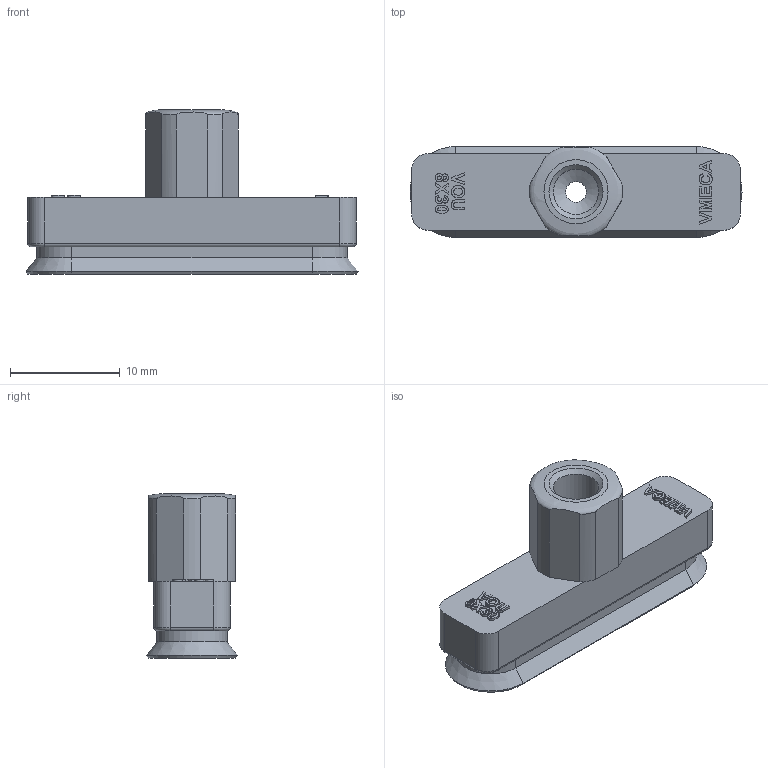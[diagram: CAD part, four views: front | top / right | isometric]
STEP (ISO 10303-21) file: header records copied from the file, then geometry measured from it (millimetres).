
FILE_DESCRIPTION( ( 'Unknown' ), '1' );
FILE_NAME( 'D:/New PAD/PAD-VOU/Part/STEP/VOU 8X30_M5F.stp', 'Unknown', ( 'Unknown' ), ( 'Unknown' ), 'XStep 1.0', 'Unknown', ' ' );
FILE_SCHEMA( ( 'automotive_design' ) );
Length unit declared in the file: millimetre
Products named in the file (1): 8X30_STP
Bounding box: 30.32 x 8.32 x 15 mm (x, y, z)
Volume: 1723.9 mm3; surface area: 1331.7 mm2
Topology: 1 solids, 1 shells, 158 faces, 389 edges, 251 vertices
Faces by surface type: extrusion 85, plane 42, cylinder 20, cone 6, torus 4, revolution 1
Full cylindrical faces by diameter (mm): 1.9 x1, 3 x1, 4.134 x2
Entity records: 6867 total; most frequent: CARTESIAN_POINT 2091, ORIENTED_EDGE 744, DIRECTION 550, EDGE_CURVE 372, VECTOR 297, VERTEX_POINT 247, LINE 212, B_SPLINE_CURVE_WITH_KNOTS 192
